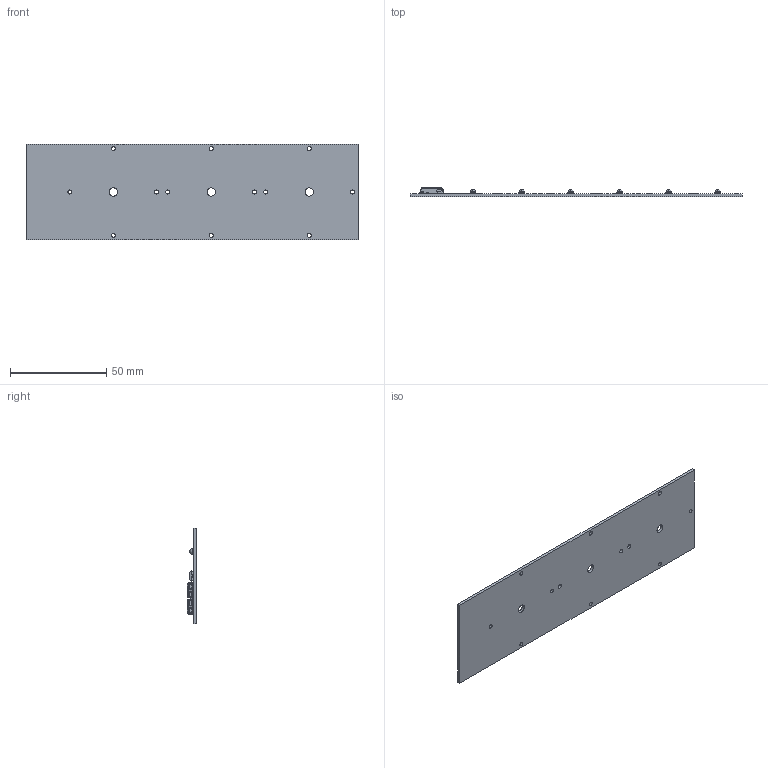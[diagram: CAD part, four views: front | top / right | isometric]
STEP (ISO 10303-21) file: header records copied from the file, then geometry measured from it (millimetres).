
FILE_DESCRIPTION((''),'2;1');
FILE_NAME('3D-MODEL-WU-M-541-SQ-12_ASM','2021-01-15T12:09:47',('msavic'),(''),'CREO PARAMETRIC BY PTC INC, 2016510','CREO PARAMETRIC BY PTC INC, 2016510','');
FILE_SCHEMA(('AUTOMOTIVE_DESIGN { 1 0 10303 214 1 1 1 1 }'));
Products named in the file (15): NEW_BAZA_WU-M-541-SQ5_12_DIODA_; KONEKTOR_MCC-SMD-2P__1; DIODA_WU-M-541-SQ5_4-8-12-16_2; R0603_1; DIODA_P_DO214AC_1; CE-ZEICHEN-6MM_2_4; CE-ZEICHEN-6MM001_2_4; VSO-LOGO-5MM_3_3; VSO-LOGO-5MM001_2_1_3; BUILT-IN_LED_MODULE-5MM004_2_2; BUILT-IN_LED_MODULE-5MM002_2_2; BUILT-IN_LED_MODULE-5MM003_2_2; BUILT-IN_LED_MODULE-5MM001_2_2; ASM_WU-M-541-SQ-12_ALL-ELEMENTS_ASM; 3D-MODEL-WU-M-541-SQ-12_ASM
Assembly tree (28 placements, depth 3):
  3D-MODEL-WU-M-541-SQ-12_ASM
    ASM_WU-M-541-SQ-12_ALL-ELEMENTS_ASM
      NEW_BAZA_WU-M-541-SQ5_12_DIODA_
      KONEKTOR_MCC-SMD-2P__1  x2
      DIODA_WU-M-541-SQ5_4-8-12-16_2  x12
      R0603_1  x2
      DIODA_P_DO214AC_1
      CE-ZEICHEN-6MM_2_4
      CE-ZEICHEN-6MM001_2_4
      VSO-LOGO-5MM_3_3
      VSO-LOGO-5MM001_2_1_3
      BUILT-IN_LED_MODULE-5MM004_2_2
      BUILT-IN_LED_MODULE-5MM002_2_2
      BUILT-IN_LED_MODULE-5MM003_2_2
      BUILT-IN_LED_MODULE-5MM001_2_2  x2
Bounding box: 172.2 x 4.9 x 49.5 mm (x, y, z)
Volume: 12820 mm3; surface area: 19027.9 mm2
Topology: 25 solids, 33 shells, 4941 faces, 13709 edges, 8990 vertices
Faces by surface type: plane 3932, cylinder 499, bspline 210, extrusion 108, cone 80, torus 64, sphere 48
Entity records: 159134 total; most frequent: CARTESIAN_POINT 31469, ORIENTED_EDGE 21462, DIRECTION 18167, EDGE_CURVE 10752, VECTOR 9637, LINE 9578, VERTEX_POINT 7111, PRESENTATION_STYLE_ASSIGNMENT 4674
